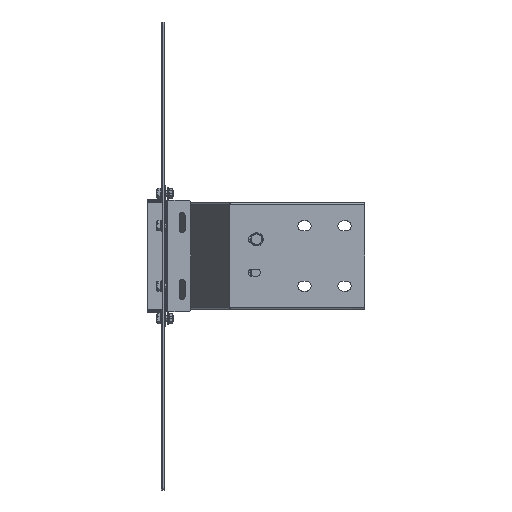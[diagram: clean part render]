
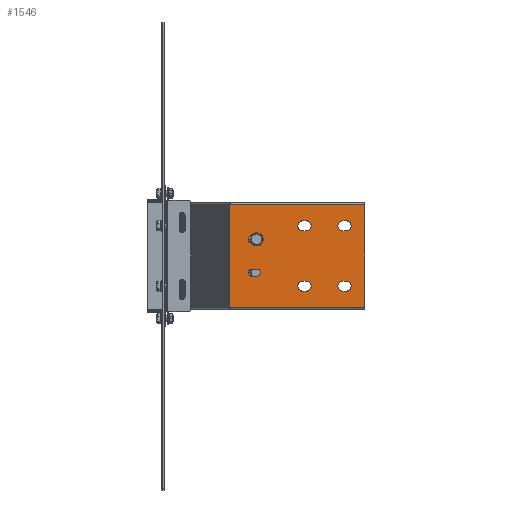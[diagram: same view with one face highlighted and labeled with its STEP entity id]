
A CAD part, front view. The second image highlights one B-rep face of the part: STEP entity #1546.
In plain terms, the highlighted planar face has unit normal (0, -1, 0).
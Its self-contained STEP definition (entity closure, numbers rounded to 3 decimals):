
#1302=AXIS2_PLACEMENT_3D('Circle Axis2P3D',#1300,#1301,$) ;
#1322=AXIS2_PLACEMENT_3D('Plane Axis2P3D',#1319,#1320,#1321) ;
#1360=AXIS2_PLACEMENT_3D('Circle Axis2P3D',#1358,#1359,$) ;
#1378=AXIS2_PLACEMENT_3D('Circle Axis2P3D',#1376,#1377,$) ;
#1394=AXIS2_PLACEMENT_3D('Circle Axis2P3D',#1392,#1393,$) ;
#1412=AXIS2_PLACEMENT_3D('Circle Axis2P3D',#1410,#1411,$) ;
#1428=AXIS2_PLACEMENT_3D('Circle Axis2P3D',#1426,#1427,$) ;
#1455=AXIS2_PLACEMENT_3D('Circle Axis2P3D',#1453,#1454,$) ;
#1469=AXIS2_PLACEMENT_3D('Circle Axis2P3D',#1467,#1468,$) ;
#1480=AXIS2_PLACEMENT_3D('Circle Axis2P3D',#1478,#1479,$) ;
#1496=AXIS2_PLACEMENT_3D('Circle Axis2P3D',#1494,#1495,$) ;
#1514=AXIS2_PLACEMENT_3D('Circle Axis2P3D',#1512,#1513,$) ;
#1530=AXIS2_PLACEMENT_3D('Circle Axis2P3D',#1528,#1529,$) ;
#1266=CARTESIAN_POINT('Vertex',(212.5,-218.,52.5)) ;
#1269=CARTESIAN_POINT('Line Origine',(210.,-218.,52.5)) ;
#1273=CARTESIAN_POINT('Vertex',(207.5,-218.,52.5)) ;
#1300=CARTESIAN_POINT('Axis2P3D Location',(207.5,-218.,45.)) ;
#1304=CARTESIAN_POINT('Vertex',(207.5,-218.,37.5)) ;
#1319=CARTESIAN_POINT('Axis2P3D Location',(300.,-218.,-77.)) ;
#1324=CARTESIAN_POINT('Line Origine',(199.021,-218.,-77.)) ;
#1328=CARTESIAN_POINT('Vertex',(300.,-218.,-77.)) ;
#1330=CARTESIAN_POINT('Vertex',(98.041,-218.,-77.)) ;
#1333=CARTESIAN_POINT('Line Origine',(300.,-218.,0.)) ;
#1337=CARTESIAN_POINT('Vertex',(300.,-218.,77.)) ;
#1340=CARTESIAN_POINT('Line Origine',(199.021,-218.,77.)) ;
#1344=CARTESIAN_POINT('Vertex',(98.041,-218.,77.)) ;
#1347=CARTESIAN_POINT('Line Origine',(98.041,-218.,0.)) ;
#1358=CARTESIAN_POINT('Axis2P3D Location',(212.5,-218.,45.)) ;
#1362=CARTESIAN_POINT('Vertex',(212.5,-218.,37.5)) ;
#1365=CARTESIAN_POINT('Line Origine',(210.,-218.,37.5)) ;
#1376=CARTESIAN_POINT('Axis2P3D Location',(272.5,-218.,45.)) ;
#1380=CARTESIAN_POINT('Vertex',(272.5,-218.,37.5)) ;
#1382=CARTESIAN_POINT('Vertex',(272.5,-218.,52.5)) ;
#1385=CARTESIAN_POINT('Line Origine',(270.,-218.,37.5)) ;
#1389=CARTESIAN_POINT('Vertex',(267.5,-218.,37.5)) ;
#1392=CARTESIAN_POINT('Axis2P3D Location',(267.5,-218.,45.)) ;
#1396=CARTESIAN_POINT('Vertex',(267.5,-218.,52.5)) ;
#1399=CARTESIAN_POINT('Line Origine',(270.,-218.,52.5)) ;
#1410=CARTESIAN_POINT('Axis2P3D Location',(207.5,-218.,-45.)) ;
#1414=CARTESIAN_POINT('Vertex',(207.5,-218.,-37.5)) ;
#1416=CARTESIAN_POINT('Vertex',(207.5,-218.,-52.5)) ;
#1419=CARTESIAN_POINT('Line Origine',(210.,-218.,-37.5)) ;
#1423=CARTESIAN_POINT('Vertex',(212.5,-218.,-37.5)) ;
#1426=CARTESIAN_POINT('Axis2P3D Location',(212.5,-218.,-45.)) ;
#1430=CARTESIAN_POINT('Vertex',(212.5,-218.,-52.5)) ;
#1433=CARTESIAN_POINT('Line Origine',(210.,-218.,-52.5)) ;
#1444=CARTESIAN_POINT('Line Origine',(270.,-218.,-37.5)) ;
#1448=CARTESIAN_POINT('Vertex',(272.5,-218.,-37.5)) ;
#1450=CARTESIAN_POINT('Vertex',(267.5,-218.,-37.5)) ;
#1453=CARTESIAN_POINT('Axis2P3D Location',(272.5,-218.,-45.)) ;
#1457=CARTESIAN_POINT('Vertex',(272.5,-218.,-52.5)) ;
#1460=CARTESIAN_POINT('Line Origine',(270.,-218.,-52.5)) ;
#1464=CARTESIAN_POINT('Vertex',(267.5,-218.,-52.5)) ;
#1467=CARTESIAN_POINT('Axis2P3D Location',(267.5,-218.,-45.)) ;
#1478=CARTESIAN_POINT('Axis2P3D Location',(138.5,-218.,25.)) ;
#1482=CARTESIAN_POINT('Vertex',(138.5,-218.,19.5)) ;
#1484=CARTESIAN_POINT('Vertex',(138.5,-218.,30.5)) ;
#1487=CARTESIAN_POINT('Line Origine',(135.,-218.,19.5)) ;
#1491=CARTESIAN_POINT('Vertex',(131.5,-218.,19.5)) ;
#1494=CARTESIAN_POINT('Axis2P3D Location',(131.5,-218.,25.)) ;
#1498=CARTESIAN_POINT('Vertex',(131.5,-218.,30.5)) ;
#1501=CARTESIAN_POINT('Line Origine',(135.,-218.,30.5)) ;
#1512=CARTESIAN_POINT('Axis2P3D Location',(131.5,-218.,-25.)) ;
#1516=CARTESIAN_POINT('Vertex',(131.5,-218.,-19.5)) ;
#1518=CARTESIAN_POINT('Vertex',(131.5,-218.,-30.5)) ;
#1521=CARTESIAN_POINT('Line Origine',(135.,-218.,-19.5)) ;
#1525=CARTESIAN_POINT('Vertex',(138.5,-218.,-19.5)) ;
#1528=CARTESIAN_POINT('Axis2P3D Location',(138.5,-218.,-25.)) ;
#1532=CARTESIAN_POINT('Vertex',(138.5,-218.,-30.5)) ;
#1535=CARTESIAN_POINT('Line Origine',(135.,-218.,-30.5)) ;
#1270=DIRECTION('Vector Direction',(1.,0.,0.)) ;
#1301=DIRECTION('Axis2P3D Direction',(0.,-1.,0.)) ;
#1320=DIRECTION('Axis2P3D Direction',(0.,-1.,0.)) ;
#1321=DIRECTION('Axis2P3D XDirection',(0.,0.,1.)) ;
#1325=DIRECTION('Vector Direction',(-1.,0.,0.)) ;
#1334=DIRECTION('Vector Direction',(0.,0.,1.)) ;
#1341=DIRECTION('Vector Direction',(-1.,0.,0.)) ;
#1348=DIRECTION('Vector Direction',(0.,0.,1.)) ;
#1359=DIRECTION('Axis2P3D Direction',(0.,-1.,0.)) ;
#1366=DIRECTION('Vector Direction',(-1.,0.,0.)) ;
#1377=DIRECTION('Axis2P3D Direction',(0.,-1.,0.)) ;
#1386=DIRECTION('Vector Direction',(1.,0.,0.)) ;
#1393=DIRECTION('Axis2P3D Direction',(0.,-1.,0.)) ;
#1400=DIRECTION('Vector Direction',(-1.,0.,0.)) ;
#1411=DIRECTION('Axis2P3D Direction',(0.,-1.,0.)) ;
#1420=DIRECTION('Vector Direction',(-1.,0.,0.)) ;
#1427=DIRECTION('Axis2P3D Direction',(0.,-1.,0.)) ;
#1434=DIRECTION('Vector Direction',(1.,0.,0.)) ;
#1445=DIRECTION('Vector Direction',(1.,0.,0.)) ;
#1454=DIRECTION('Axis2P3D Direction',(0.,-1.,0.)) ;
#1461=DIRECTION('Vector Direction',(-1.,0.,0.)) ;
#1468=DIRECTION('Axis2P3D Direction',(0.,-1.,0.)) ;
#1479=DIRECTION('Axis2P3D Direction',(0.,-1.,0.)) ;
#1488=DIRECTION('Vector Direction',(-1.,0.,0.)) ;
#1495=DIRECTION('Axis2P3D Direction',(0.,-1.,0.)) ;
#1502=DIRECTION('Vector Direction',(1.,0.,0.)) ;
#1513=DIRECTION('Axis2P3D Direction',(0.,-1.,0.)) ;
#1522=DIRECTION('Vector Direction',(-1.,0.,0.)) ;
#1529=DIRECTION('Axis2P3D Direction',(0.,-1.,0.)) ;
#1536=DIRECTION('Vector Direction',(1.,0.,0.)) ;
#1271=VECTOR('Line Direction',#1270,1.) ;
#1326=VECTOR('Line Direction',#1325,1.) ;
#1335=VECTOR('Line Direction',#1334,1.) ;
#1342=VECTOR('Line Direction',#1341,1.) ;
#1349=VECTOR('Line Direction',#1348,1.) ;
#1367=VECTOR('Line Direction',#1366,1.) ;
#1387=VECTOR('Line Direction',#1386,1.) ;
#1401=VECTOR('Line Direction',#1400,1.) ;
#1421=VECTOR('Line Direction',#1420,1.) ;
#1435=VECTOR('Line Direction',#1434,1.) ;
#1446=VECTOR('Line Direction',#1445,1.) ;
#1462=VECTOR('Line Direction',#1461,1.) ;
#1489=VECTOR('Line Direction',#1488,1.) ;
#1503=VECTOR('Line Direction',#1502,1.) ;
#1523=VECTOR('Line Direction',#1522,1.) ;
#1537=VECTOR('Line Direction',#1536,1.) ;
#1353=ORIENTED_EDGE('',*,*,#1332,.F.) ;
#1354=ORIENTED_EDGE('',*,*,#1339,.F.) ;
#1355=ORIENTED_EDGE('',*,*,#1346,.T.) ;
#1356=ORIENTED_EDGE('',*,*,#1351,.F.) ;
#1371=ORIENTED_EDGE('',*,*,#1364,.F.) ;
#1372=ORIENTED_EDGE('',*,*,#1369,.F.) ;
#1373=ORIENTED_EDGE('',*,*,#1306,.F.) ;
#1374=ORIENTED_EDGE('',*,*,#1275,.F.) ;
#1405=ORIENTED_EDGE('',*,*,#1384,.F.) ;
#1406=ORIENTED_EDGE('',*,*,#1391,.F.) ;
#1407=ORIENTED_EDGE('',*,*,#1398,.F.) ;
#1408=ORIENTED_EDGE('',*,*,#1403,.F.) ;
#1439=ORIENTED_EDGE('',*,*,#1418,.F.) ;
#1440=ORIENTED_EDGE('',*,*,#1425,.F.) ;
#1441=ORIENTED_EDGE('',*,*,#1432,.F.) ;
#1442=ORIENTED_EDGE('',*,*,#1437,.F.) ;
#1473=ORIENTED_EDGE('',*,*,#1452,.F.) ;
#1474=ORIENTED_EDGE('',*,*,#1459,.F.) ;
#1475=ORIENTED_EDGE('',*,*,#1466,.F.) ;
#1476=ORIENTED_EDGE('',*,*,#1471,.F.) ;
#1507=ORIENTED_EDGE('',*,*,#1486,.F.) ;
#1508=ORIENTED_EDGE('',*,*,#1493,.F.) ;
#1509=ORIENTED_EDGE('',*,*,#1500,.F.) ;
#1510=ORIENTED_EDGE('',*,*,#1505,.F.) ;
#1541=ORIENTED_EDGE('',*,*,#1520,.F.) ;
#1542=ORIENTED_EDGE('',*,*,#1527,.F.) ;
#1543=ORIENTED_EDGE('',*,*,#1534,.F.) ;
#1544=ORIENTED_EDGE('',*,*,#1539,.F.) ;
#1375=FACE_BOUND('',#1370,.T.) ;
#1409=FACE_BOUND('',#1404,.T.) ;
#1443=FACE_BOUND('',#1438,.T.) ;
#1477=FACE_BOUND('',#1472,.T.) ;
#1511=FACE_BOUND('',#1506,.T.) ;
#1545=FACE_BOUND('',#1540,.T.) ;
#1546=ADVANCED_FACE('N',(#1357,#1375,#1409,#1443,#1477,#1511,#1545),#1323,.T.) ;
#1303=CIRCLE('generated circle',#1302,7.5) ;
#1361=CIRCLE('generated circle',#1360,7.5) ;
#1379=CIRCLE('generated circle',#1378,7.5) ;
#1395=CIRCLE('generated circle',#1394,7.5) ;
#1413=CIRCLE('generated circle',#1412,7.5) ;
#1429=CIRCLE('generated circle',#1428,7.5) ;
#1456=CIRCLE('generated circle',#1455,7.5) ;
#1470=CIRCLE('generated circle',#1469,7.5) ;
#1481=CIRCLE('generated circle',#1480,5.5) ;
#1497=CIRCLE('generated circle',#1496,5.5) ;
#1515=CIRCLE('generated circle',#1514,5.5) ;
#1531=CIRCLE('generated circle',#1530,5.5) ;
#1275=EDGE_CURVE('',#1267,#1274,#1272,.F.) ;
#1306=EDGE_CURVE('',#1274,#1305,#1303,.T.) ;
#1332=EDGE_CURVE('',#1329,#1331,#1327,.T.) ;
#1339=EDGE_CURVE('',#1338,#1329,#1336,.F.) ;
#1346=EDGE_CURVE('',#1338,#1345,#1343,.T.) ;
#1351=EDGE_CURVE('',#1331,#1345,#1350,.T.) ;
#1364=EDGE_CURVE('',#1363,#1267,#1361,.T.) ;
#1369=EDGE_CURVE('',#1305,#1363,#1368,.F.) ;
#1384=EDGE_CURVE('',#1381,#1383,#1379,.T.) ;
#1391=EDGE_CURVE('',#1390,#1381,#1388,.T.) ;
#1398=EDGE_CURVE('',#1397,#1390,#1395,.T.) ;
#1403=EDGE_CURVE('',#1383,#1397,#1402,.T.) ;
#1418=EDGE_CURVE('',#1415,#1417,#1413,.T.) ;
#1425=EDGE_CURVE('',#1424,#1415,#1422,.T.) ;
#1432=EDGE_CURVE('',#1431,#1424,#1429,.T.) ;
#1437=EDGE_CURVE('',#1417,#1431,#1436,.T.) ;
#1452=EDGE_CURVE('',#1449,#1451,#1447,.F.) ;
#1459=EDGE_CURVE('',#1458,#1449,#1456,.T.) ;
#1466=EDGE_CURVE('',#1465,#1458,#1463,.F.) ;
#1471=EDGE_CURVE('',#1451,#1465,#1470,.T.) ;
#1486=EDGE_CURVE('',#1483,#1485,#1481,.T.) ;
#1493=EDGE_CURVE('',#1492,#1483,#1490,.F.) ;
#1500=EDGE_CURVE('',#1499,#1492,#1497,.T.) ;
#1505=EDGE_CURVE('',#1485,#1499,#1504,.F.) ;
#1520=EDGE_CURVE('',#1517,#1519,#1515,.T.) ;
#1527=EDGE_CURVE('',#1526,#1517,#1524,.T.) ;
#1534=EDGE_CURVE('',#1533,#1526,#1531,.T.) ;
#1539=EDGE_CURVE('',#1519,#1533,#1538,.T.) ;
#1352=EDGE_LOOP('',(#1353,#1354,#1355,#1356)) ;
#1370=EDGE_LOOP('',(#1371,#1372,#1373,#1374)) ;
#1404=EDGE_LOOP('',(#1405,#1406,#1407,#1408)) ;
#1438=EDGE_LOOP('',(#1439,#1440,#1441,#1442)) ;
#1472=EDGE_LOOP('',(#1473,#1474,#1475,#1476)) ;
#1506=EDGE_LOOP('',(#1507,#1508,#1509,#1510)) ;
#1540=EDGE_LOOP('',(#1541,#1542,#1543,#1544)) ;
#1357=FACE_OUTER_BOUND('',#1352,.T.) ;
#1272=LINE('Line',#1269,#1271) ;
#1327=LINE('Line',#1324,#1326) ;
#1336=LINE('Line',#1333,#1335) ;
#1343=LINE('Line',#1340,#1342) ;
#1350=LINE('Line',#1347,#1349) ;
#1368=LINE('Line',#1365,#1367) ;
#1388=LINE('Line',#1385,#1387) ;
#1402=LINE('Line',#1399,#1401) ;
#1422=LINE('Line',#1419,#1421) ;
#1436=LINE('Line',#1433,#1435) ;
#1447=LINE('Line',#1444,#1446) ;
#1463=LINE('Line',#1460,#1462) ;
#1490=LINE('Line',#1487,#1489) ;
#1504=LINE('Line',#1501,#1503) ;
#1524=LINE('Line',#1521,#1523) ;
#1538=LINE('Line',#1535,#1537) ;
#1323=PLANE('',#1322) ;
#1267=VERTEX_POINT('',#1266) ;
#1274=VERTEX_POINT('',#1273) ;
#1305=VERTEX_POINT('',#1304) ;
#1329=VERTEX_POINT('',#1328) ;
#1331=VERTEX_POINT('',#1330) ;
#1338=VERTEX_POINT('',#1337) ;
#1345=VERTEX_POINT('',#1344) ;
#1363=VERTEX_POINT('',#1362) ;
#1381=VERTEX_POINT('',#1380) ;
#1383=VERTEX_POINT('',#1382) ;
#1390=VERTEX_POINT('',#1389) ;
#1397=VERTEX_POINT('',#1396) ;
#1415=VERTEX_POINT('',#1414) ;
#1417=VERTEX_POINT('',#1416) ;
#1424=VERTEX_POINT('',#1423) ;
#1431=VERTEX_POINT('',#1430) ;
#1449=VERTEX_POINT('',#1448) ;
#1451=VERTEX_POINT('',#1450) ;
#1458=VERTEX_POINT('',#1457) ;
#1465=VERTEX_POINT('',#1464) ;
#1483=VERTEX_POINT('',#1482) ;
#1485=VERTEX_POINT('',#1484) ;
#1492=VERTEX_POINT('',#1491) ;
#1499=VERTEX_POINT('',#1498) ;
#1517=VERTEX_POINT('',#1516) ;
#1519=VERTEX_POINT('',#1518) ;
#1526=VERTEX_POINT('',#1525) ;
#1533=VERTEX_POINT('',#1532) ;
